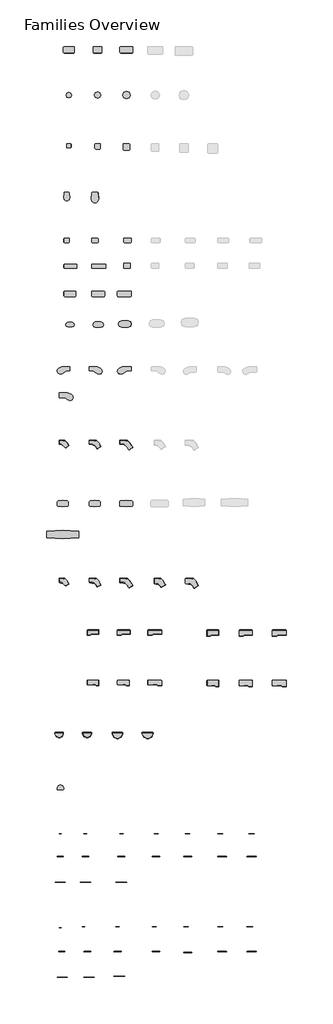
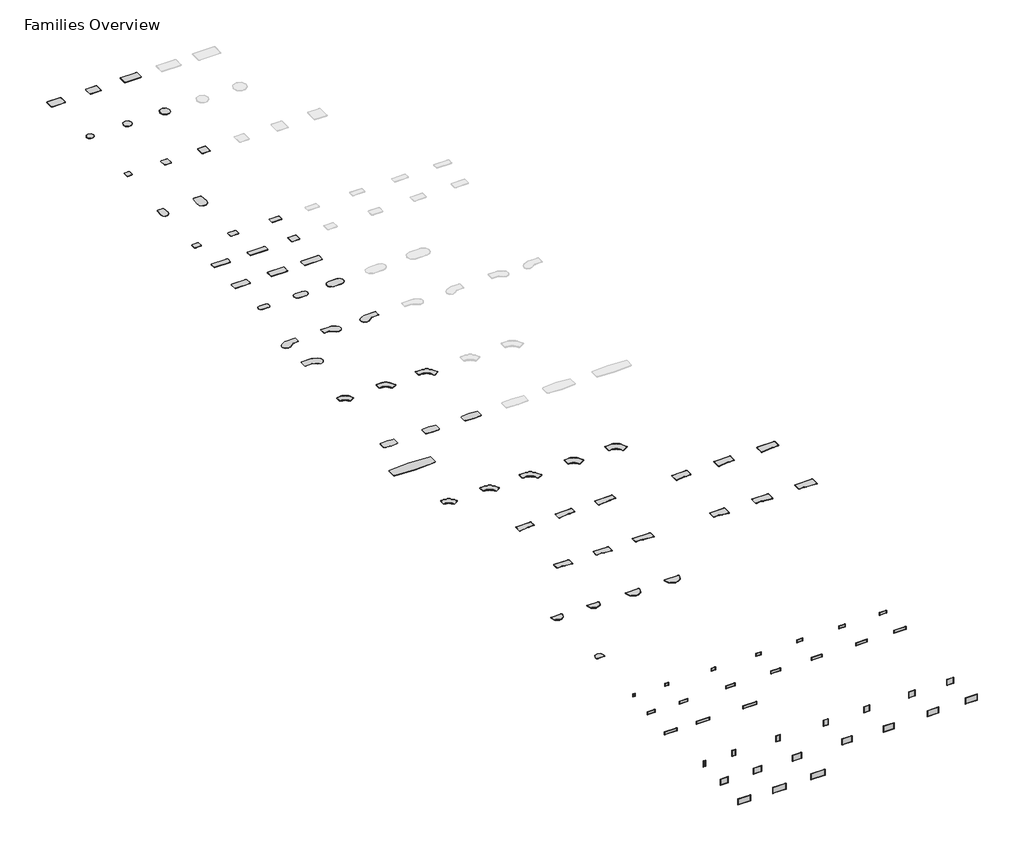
# One storey, part 1 of 3: 90 furniture elements.
"""IFC4 building model written with IfcOpenShell, lengths in millimetres."""

from ifc_helpers import new_model, si_unit, origin, place, context, project, spatial, transform, mapped, element, save
from components import furniture_098f1aec, furniture_23bbaa94, furniture_18c308d8, furniture_1676966e, furniture_8e2370ad, furniture_001bb3ce, furniture_fb54aad2, furniture_85e610aa, furniture_8805ef1a, furniture_a98a5081, furniture_ec0194f2, furniture_9fccd9ab, furniture_4a9a059a, furniture_77380ddc, furniture_15ceefc5, furniture_958205e1, furniture_0a1c9569, furniture_68b23aa5, furniture_45c099b7, furniture_54dfe461, furniture_09d0de0e, furniture_2d95de3c, furniture_98b74d04, furniture_5fea9398, furniture_d9c778b3, furniture_24in_x_30in_x_66in_2a83a822, furniture_24in_x_30in_x_78in_2ef61e4b, furniture_27in_x_32in_x_48in_75838feb, furniture_30in_x_24in_x_66in_edf3957f, furniture_30in_x_24in_x_72in_bc84e176, furniture_30in_x_24in_x_78in_4ae13c03, furniture_30in_x_36in_x_66in_160e33f3, furniture_30in_x_36in_x_72in_a0267181, furniture_30in_x_36in_x_78in_5d5ac5e1, furniture_33in_x_40in_x_60in_bd0d3fa8, furniture_36in_x_30in_x_66in_2783b16c, furniture_36in_x_30in_x_72in_42ab280b, furniture_36in_x_30in_x_78in_6322faa8, furniture_48w_0849805d, furniture_52w_7c983797, furniture_60w_297c2ae5, furniture_64w_dc0bf3da, steelcase_answer_solution_modesty_panel_full_height_15in_74964b7b, steelcase_answer_solution_modesty_panel_full_height_18in_58c8084d, steelcase_answer_solution_modesty_panel_full_height_21in_4f59d7bd, steelcase_answer_solution_modesty_panel_full_height_24in_1d2cab0f, steelcase_answer_solution_modesty_panel_full_height_27in_94429bf9, steelcase_answer_solution_modesty_panel_full_height_30in_3842627a, steelcase_answer_solution_modesty_panel_full_height_33in_8d54a0c3, steelcase_answer_solution_modesty_panel_full_height_36in_a9e87bf2, steelcase_answer_solution_modesty_panel_full_height_39in_1fd3dfdf, steelcase_answer_solution_modesty_panel_full_height_42in_e0beb9f9, steelcase_answer_solution_modesty_panel_full_height_45in_2ea0c576, steelcase_answer_solution_modesty_panel_full_height_48in_719ec124, steelcase_answer_solution_modesty_panel_full_height_51in_d566753e, steelcase_answer_solution_modesty_panel_full_height_54in_4394ff8e, steelcase_answer_solution_modesty_panel_full_height_57in_4e5e639b, steelcase_answer_solution_modesty_panel_full_height_60in_a338767f, steelcase_answer_solution_modesty_panel_full_height_9in_136281e6, steelcase_answer_solution_modesty_panel_half_height_15in_3673dff0, steelcase_answer_solution_modesty_panel_half_height_18in_19784406, steelcase_answer_solution_modesty_panel_half_height_21in_395172fc, steelcase_answer_solution_modesty_panel_half_height_24in_c1b3407e, steelcase_answer_solution_modesty_panel_half_height_27in_29186daf, steelcase_answer_solution_modesty_panel_half_height_30in_79e2bd85, steelcase_answer_solution_modesty_panel_half_height_33in_b7bac095, steelcase_answer_solution_modesty_panel_half_height_36in_416d5fb6, steelcase_answer_solution_modesty_panel_half_height_39in_644f7c5c, steelcase_answer_solution_modesty_panel_half_height_42in_a9de38b9, steelcase_answer_solution_modesty_panel_half_height_45in_6f4337e2, steelcase_answer_solution_modesty_panel_half_height_48in_4ddf96ad, steelcase_answer_solution_modesty_panel_half_height_51in_f0155a00, steelcase_answer_solution_modesty_panel_half_height_54in_2e78a3e8, steelcase_answer_solution_modesty_panel_half_height_57in_09d9d545, steelcase_answer_solution_modesty_panel_half_height_60in_16be81f0, steelcase_answer_solution_modesty_panel_half_height_9in_260cc02f, steelcase_answer_solution_universal_table_rectangular_161e908d, steelcase_answer_solution_universal_table_rectangular_6d54e472, steelcase_answer_solution_universal_table_rectangular_5f4ec094, steelcase_answer_solution_universal_table_round_30dia_e3b38b3a, steelcase_answer_solution_universal_table_round_36dia_8c53d9f9, steelcase_answer_solution_universal_table_round_42dia_902c1210, steelcase_answer_solution_universal_table_square_bafa552c, steelcase_answer_solution_universal_table_square_1e0596e6, steelcase_answer_solution_universal_table_square_e65031f2

model = new_model("IFC4")

# Units and contexts
model_context = context("Model", 3, world=origin())
ifc_project = project(units=[si_unit("LENGTHUNIT", "METRE", prefix="MILLI")], contexts=[model_context])

# Site, building, storey
site = spatial("IfcSite", under=ifc_project)
building = spatial("IfcBuilding", under=site)
storey = spatial("IfcBuildingStorey", under=building, Name="Families Overview", Elevation=0.0)

# Furniture
placement = place(None, origin())
furniture_shape = furniture_098f1aec(model_context)
element("IfcFurniture", 1, ObjectType="Steelcase - Answer Solution - Universal Table - Peninsular : 27D x 36W", at=placement, inside=storey, context=model_context, shape_type="MappedRepresentation", body=[
    mapped(furniture_shape, transform((-10567.8688063, -371479.8946531, 0.0), x_axis=(1.0, 0.0, 0.0), y_axis=(0.0, 1.0, 0.0), z_axis=(0.0, 0.0, 1.0))),
])
furniture_2_shape = furniture_23bbaa94(model_context)
element("IfcFurniture", 2, ObjectType="Steelcase - Answer Solution - Universal Table - Straight - 3mm Edge : 30D x 66W", at=placement, inside=storey, context=model_context, shape_type="MappedRepresentation", body=[
    mapped(furniture_2_shape, transform((-10062.6628064, -301076.1746531, 0.0), x_axis=(1.0, 0.0, 0.0), y_axis=(0.0, 1.0, 0.0), z_axis=(0.0, 0.0, 1.0))),
])
furniture_3_shape = furniture_18c308d8(model_context)
element("IfcFurniture", 3, ObjectType="Steelcase - Answer Solution - Universal Table - Straight - 3mm Edge : 30D x 78W", at=placement, inside=storey, context=model_context, shape_type="MappedRepresentation", body=[
    mapped(furniture_3_shape, transform((-2518.8628064, -301076.1746531, 0.0), x_axis=(1.0, 0.0, 0.0), y_axis=(0.0, 1.0, 0.0), z_axis=(0.0, 0.0, 1.0))),
])
furniture_4_shape = furniture_1676966e(model_context)
element("IfcFurniture", 4, ObjectType="Steelcase - Answer Solution - Universal Table - Straight - 3mm Edge : 24D x 30W", at=placement, inside=storey, context=model_context, shape_type="MappedRepresentation", body=[
    mapped(furniture_4_shape, transform((-10062.6628064, -293608.5746531, 0.0), x_axis=(1.0, 0.0, 0.0), y_axis=(0.0, 1.0, 0.0), z_axis=(0.0, 0.0, 1.0))),
])
furniture_5_shape = furniture_8e2370ad(model_context)
element("IfcFurniture", 5, ObjectType="Steelcase - Answer Solution - Universal Table - Straight - 3mm Edge : 30D x 72W", at=placement, inside=storey, context=model_context, shape_type="MappedRepresentation", body=[
    mapped(furniture_5_shape, transform((-6151.0628064, -301076.1746531, 0.0), x_axis=(1.0, 0.0, 0.0), y_axis=(0.0, 1.0, 0.0), z_axis=(0.0, 0.0, 1.0))),
])
furniture_6_shape = furniture_001bb3ce(model_context)
element("IfcFurniture", 6, ObjectType="Steelcase - Answer Solution - Universal Table - Straight - 3mm Edge : 30D x 36W", at=placement, inside=storey, context=model_context, shape_type="MappedRepresentation", body=[
    mapped(furniture_6_shape, transform((-1629.8628064, -297113.7746531, 0.0), x_axis=(1.0, 0.0, 0.0), y_axis=(0.0, 1.0, 0.0), z_axis=(0.0, 0.0, 1.0))),
])
furniture_7_shape = furniture_fb54aad2(model_context)
element("IfcFurniture", 7, ObjectType="Steelcase - Answer Solution - Universal Table - Straight - 3mm Edge : 24D x 36W", at=placement, inside=storey, context=model_context, shape_type="MappedRepresentation", body=[
    mapped(furniture_7_shape, transform((-6151.0628064, -293608.5746531, 0.0), x_axis=(1.0, 0.0, 0.0), y_axis=(0.0, 1.0, 0.0), z_axis=(0.0, 0.0, 1.0))),
])
furniture_8_shape = furniture_85e610aa(model_context)
element("IfcFurniture", 8, ObjectType="Steelcase - Answer Solution - Universal Table - Straight - 3mm Edge : 24D x 42W", at=placement, inside=storey, context=model_context, shape_type="MappedRepresentation", body=[
    mapped(furniture_8_shape, transform((-1629.8628064, -293608.5746531, 0.0), x_axis=(1.0, 0.0, 0.0), y_axis=(0.0, 1.0, 0.0), z_axis=(0.0, 0.0, 1.0))),
])
furniture_9_shape = furniture_8805ef1a(model_context)
element("IfcFurniture", 9, ObjectType="Steelcase - Answer Solution - Universal Table - Straight - 3mm Edge : 24D x 72W", at=placement, inside=storey, context=model_context, shape_type="MappedRepresentation", body=[
    mapped(furniture_9_shape, transform((-10062.6628064, -297266.1746531, 0.0), x_axis=(1.0, 0.0, 0.0), y_axis=(0.0, 1.0, 0.0), z_axis=(0.0, 0.0, 1.0))),
])
furniture_10_shape = furniture_a98a5081(model_context)
element("IfcFurniture", 10, ObjectType="Steelcase - Answer Solution - Universal Table - Straight - 3mm Edge : 24D x 78W", at=placement, inside=storey, context=model_context, shape_type="MappedRepresentation", body=[
    mapped(furniture_10_shape, transform((-6151.0628064, -297266.1746531, 0.0), x_axis=(1.0, 0.0, 0.0), y_axis=(0.0, 1.0, 0.0), z_axis=(0.0, 0.0, 1.0))),
])
furniture_11_shape = furniture_ec0194f2(model_context)
element("IfcFurniture", 11, ObjectType="Steelcase - Answer Solution - Universal Table - Capsule - 3mm Edge : 36D x 72W", at=placement, inside=storey, context=model_context, shape_type="MappedRepresentation", body=[
    mapped(furniture_11_shape, transform((-1452.0628064, -305724.3746531, 0.0), x_axis=(1.0, 0.0, 0.0), y_axis=(0.0, 1.0, 0.0), z_axis=(0.0, 0.0, 1.0))),
])
furniture_12_shape = furniture_9fccd9ab(model_context)
element("IfcFurniture", 12, ObjectType="Steelcase - Answer Solution - Universal Table - Capsule - 3mm Edge : 24D x 48W", at=placement, inside=storey, context=model_context, shape_type="MappedRepresentation", body=[
    mapped(furniture_12_shape, transform((-9224.4628064, -305800.5746531, 0.0), x_axis=(1.0, 0.0, 0.0), y_axis=(0.0, 1.0, 0.0), z_axis=(0.0, 0.0, 1.0))),
])
furniture_13_shape = furniture_4a9a059a(model_context)
element("IfcFurniture", 13, ObjectType="Steelcase - Answer Solution - Universal Table - Capsule - 3mm Edge : 30D x 60W", at=placement, inside=storey, context=model_context, shape_type="MappedRepresentation", body=[
    mapped(furniture_13_shape, transform((-5236.6628064, -305800.5746531, 0.0), x_axis=(1.0, 0.0, 0.0), y_axis=(0.0, 1.0, 0.0), z_axis=(0.0, 0.0, 1.0))),
])
furniture_14_shape = furniture_77380ddc(model_context)
element("IfcFurniture", 14, ObjectType="Steelcase - Answer Solution - Universal Table - Bubble Jetty - 3mm Edge : 24D x 72W - Left", at=placement, inside=storey, context=model_context, shape_type="MappedRepresentation", body=[
    mapped(furniture_14_shape, transform((-9224.4628064, -311744.1746531, 0.0), x_axis=(1.0, 0.0, 0.0), y_axis=(0.0, 1.0, 0.0), z_axis=(0.0, 0.0, 1.0))),
])
furniture_15_shape = furniture_15ceefc5(model_context)
element("IfcFurniture", 15, ObjectType="Steelcase - Answer Solution - Universal Table - Bubble Jetty - 3mm Edge : 24D x 72W - Right", at=placement, inside=storey, context=model_context, shape_type="MappedRepresentation", body=[
    mapped(furniture_15_shape, transform((-6485.072879, -311744.1746531, 0.0), x_axis=(1.0, 0.0, 0.0), y_axis=(0.0, 1.0, 0.0), z_axis=(0.0, 0.0, 1.0))),
])
furniture_16_shape = furniture_958205e1(model_context)
element("IfcFurniture", 16, ObjectType="Steelcase - Answer Solution - Universal Table - Bubble Jetty - 3mm Edge : 24D x 78W - Left", at=placement, inside=storey, context=model_context, shape_type="MappedRepresentation", body=[
    mapped(furniture_16_shape, transform((-537.6628064, -311744.1746531, 0.0), x_axis=(1.0, 0.0, 0.0), y_axis=(0.0, 1.0, 0.0), z_axis=(0.0, 0.0, 1.0))),
])
furniture_17_shape = furniture_0a1c9569(model_context)
element("IfcFurniture", 17, ObjectType="Steelcase - Answer Solution - Universal Table - Bubble Jetty - 3mm Edge : 30D x 78W - Right", at=placement, inside=storey, context=model_context, shape_type="MappedRepresentation", body=[
    mapped(furniture_17_shape, transform((-10748.4628064, -315401.7746531, 0.0), x_axis=(1.0, 0.0, 0.0), y_axis=(0.0, 1.0, 0.0), z_axis=(0.0, 0.0, 1.0))),
])
furniture_18_shape = furniture_68b23aa5(model_context)
element("IfcFurniture", 18, ObjectType="Steelcase - Answer Solution - Universal Table - Corner 120deg - 3mm Edge : 24D x 42W", at=placement, inside=storey, context=model_context, shape_type="MappedRepresentation", body=[
    mapped(furniture_18_shape, transform((-6485.072879, -322107.3746531, 0.0), x_axis=(1.0, 0.0, 0.0), y_axis=(0.0, 1.0, 0.0), z_axis=(0.0, 0.0, 1.0))),
])
element("IfcFurniture", 19, ObjectType="Steelcase - Answer Solution - Universal Table - Corner 120deg - 3mm Edge : 24D x 42W", at=placement, inside=storey, context=model_context, shape_type="MappedRepresentation", body=[
    mapped(furniture_18_shape, transform((-6485.072879, -341614.5746531, 0.0), x_axis=(1.0, 0.0, 0.0), y_axis=(0.0, 1.0, 0.0), z_axis=(0.0, 0.0, 1.0))),
])
furniture_19_shape = furniture_45c099b7(model_context)
element("IfcFurniture", 20, ObjectType="Steelcase - Answer Solution - Universal Table - Corner 120deg - 3mm Edge : 24D x 36W", at=placement, inside=storey, context=model_context, shape_type="MappedRepresentation", body=[
    mapped(furniture_19_shape, transform((-10748.4628064, -322107.3746531, 0.0), x_axis=(1.0, 0.0, 0.0), y_axis=(0.0, 1.0, 0.0), z_axis=(0.0, 0.0, 1.0))),
])
element("IfcFurniture", 21, ObjectType="Steelcase - Answer Solution - Universal Table - Corner 120deg - 3mm Edge : 24D x 36W", at=placement, inside=storey, context=model_context, shape_type="MappedRepresentation", body=[
    mapped(furniture_19_shape, transform((-10748.4628064, -341614.5746531, 0.0), x_axis=(1.0, 0.0, 0.0), y_axis=(0.0, 1.0, 0.0), z_axis=(0.0, 0.0, 1.0))),
])
furniture_20_shape = furniture_54dfe461(model_context)
element("IfcFurniture", 22, ObjectType="Steelcase - Answer Solution - Universal Table - Corner 120deg - 3mm Edge : 30D x 42W", at=placement, inside=storey, context=model_context, shape_type="MappedRepresentation", body=[
    mapped(furniture_20_shape, transform((2662.7371936, -341614.5746531, 0.0), x_axis=(1.0, 0.0, 0.0), y_axis=(0.0, 1.0, 0.0), z_axis=(0.0, 0.0, 1.0))),
])
furniture_21_shape = furniture_09d0de0e(model_context)
element("IfcFurniture", 23, ObjectType="Steelcase - Answer Solution - Universal Table - Corner 120deg - 3mm Edge : 24D x 48W", at=placement, inside=storey, context=model_context, shape_type="MappedRepresentation", body=[
    mapped(furniture_21_shape, transform((-2214.0628064, -322107.3746531, 0.0), x_axis=(1.0, 0.0, 0.0), y_axis=(0.0, 1.0, 0.0), z_axis=(0.0, 0.0, 1.0))),
])
element("IfcFurniture", 24, ObjectType="Steelcase - Answer Solution - Universal Table - Corner 120deg - 3mm Edge : 24D x 48W", at=placement, inside=storey, context=model_context, shape_type="MappedRepresentation", body=[
    mapped(furniture_21_shape, transform((-2214.0628064, -341614.5746531, 0.0), x_axis=(1.0, 0.0, 0.0), y_axis=(0.0, 1.0, 0.0), z_axis=(0.0, 0.0, 1.0))),
])
furniture_22_shape = furniture_2d95de3c(model_context)
element("IfcFurniture", 25, ObjectType="Steelcase - Answer Solution - Universal Table - Corner 120deg - 3mm Edge : 30D x 48W", at=placement, inside=storey, context=model_context, shape_type="MappedRepresentation", body=[
    mapped(furniture_22_shape, transform((7082.3371936, -341614.5746531, 0.0), x_axis=(1.0, 0.0, 0.0), y_axis=(0.0, 1.0, 0.0), z_axis=(0.0, 0.0, 1.0))),
])
furniture_23_shape = furniture_98b74d04(model_context)
element("IfcFurniture", 26, ObjectType="Steelcase - Answer Solution - Universal Table - Hex Conference : 48D x 180W", at=placement, inside=storey, context=model_context, shape_type="MappedRepresentation", body=[
    mapped(furniture_23_shape, transform((-12523.2878064, -334705.7746531, 0.0), x_axis=(1.0, 0.0, 0.0), y_axis=(0.0, 1.0, 0.0), z_axis=(0.0, 0.0, 1.0))),
])
furniture_24_shape = furniture_5fea9398(model_context)
element("IfcFurniture", 27, ObjectType="Steelcase - Answer Solution - Universal Table - Hex Conference : 36D x 72W", at=placement, inside=storey, context=model_context, shape_type="MappedRepresentation", body=[
    mapped(furniture_24_shape, transform((-2210.8878064, -330489.3746531, 0.0), x_axis=(1.0, 0.0, 0.0), y_axis=(0.0, 1.0, 0.0), z_axis=(0.0, 0.0, 1.0))),
])
furniture_25_shape = furniture_d9c778b3(model_context)
element("IfcFurniture", 28, ObjectType="Steelcase - Answer Solution - Universal Table - Hex Conference : 36D x 60W", at=placement, inside=storey, context=model_context, shape_type="MappedRepresentation", body=[
    mapped(furniture_25_shape, transform((-10999.2878064, -330489.3746531, 0.0), x_axis=(1.0, 0.0, 0.0), y_axis=(0.0, 1.0, 0.0), z_axis=(0.0, 0.0, 1.0))),
])
element("IfcFurniture", 29, ObjectType="Steelcase - Answer Solution - Universal Table - Hex Conference : 36D x 66W", at=placement, inside=storey, context=model_context, shape_type="MappedRepresentation", body=[
    mapped(furniture_25_shape, transform((-6481.897879, -330489.3746531, 0.0), x_axis=(1.0, 0.0, 0.0), y_axis=(0.0, 1.0, 0.0), z_axis=(0.0, 0.0, 1.0))),
])
furniture_24in_x_30in_x_66in_shape = furniture_24in_x_30in_x_66in_2a83a822(model_context)
element("IfcFurniture", 30, ObjectType="Steelcase - Answer Solution - Universal Table - Transition - Right : 24in x 30in x 66in", at=placement, inside=storey, context=model_context, shape_type="MappedRepresentation", body=[
    mapped(furniture_24in_x_30in_x_66in_shape, transform((-6789.872879, -356042.9134373, 0.0), x_axis=(1.0, 0.0, 0.0), y_axis=(0.0, 1.0, 0.0), z_axis=(0.0, 0.0, 1.0))),
])
element("IfcFurniture", 31, ObjectType="Steelcase - Answer Solution - Universal Table - Transition - Right : 24in x 30in x 72in", at=placement, inside=storey, context=model_context, shape_type="MappedRepresentation", body=[
    mapped(furniture_24in_x_30in_x_66in_shape, transform((-2518.8628064, -356042.9134373, 0.0), x_axis=(1.0, 0.0, 0.0), y_axis=(0.0, 1.0, 0.0), z_axis=(0.0, 0.0, 1.0))),
])
furniture_24in_x_30in_x_78in_shape = furniture_24in_x_30in_x_78in_2ef61e4b(model_context)
element("IfcFurniture", 32, ObjectType="Steelcase - Answer Solution - Universal Table - Transition - Right : 24in x 30in x 78in", at=placement, inside=storey, context=model_context, shape_type="MappedRepresentation", body=[
    mapped(furniture_24in_x_30in_x_78in_shape, transform((1748.3371936, -356042.9134373, 0.0), x_axis=(1.0, 0.0, 0.0), y_axis=(0.0, 1.0, 0.0), z_axis=(0.0, 0.0, 1.0))),
])
furniture_27in_x_32in_x_48in_shape = furniture_27in_x_32in_x_48in_75838feb(model_context)
element("IfcFurniture", 33, ObjectType="Steelcase - Answer Solution - Universal Table - Tapered Peninsula : 27in x 32in x 48in", at=placement, inside=storey, context=model_context, shape_type="MappedRepresentation", body=[
    mapped(furniture_27in_x_32in_x_48in_shape, transform((-9681.6628064, -287107.8507324, 0.0), x_axis=(1.0, 0.0, 0.0), y_axis=(0.0, 1.0, 0.0), z_axis=(0.0, 0.0, 1.0))),
])
furniture_30in_x_24in_x_66in_shape = furniture_30in_x_24in_x_66in_edf3957f(model_context)
element("IfcFurniture", 34, ObjectType="Steelcase - Answer Solution - Universal Table - Transition - Left : 30in x 24in x 66in", at=placement, inside=storey, context=model_context, shape_type="MappedRepresentation", body=[
    mapped(furniture_30in_x_24in_x_66in_shape, transform((-6789.872879, -348929.7746531, 0.0), x_axis=(1.0, 0.0, 0.0), y_axis=(0.0, 1.0, 0.0), z_axis=(0.0, 0.0, 1.0))),
])
furniture_30in_x_24in_x_72in_shape = furniture_30in_x_24in_x_72in_bc84e176(model_context)
element("IfcFurniture", 35, ObjectType="Steelcase - Answer Solution - Universal Table - Transition - Left : 30in x 24in x 72in", at=placement, inside=storey, context=model_context, shape_type="MappedRepresentation", body=[
    mapped(furniture_30in_x_24in_x_72in_shape, transform((-2518.8628064, -348929.7746531, 0.0), x_axis=(1.0, 0.0, 0.0), y_axis=(0.0, 1.0, 0.0), z_axis=(0.0, 0.0, 1.0))),
])
furniture_30in_x_24in_x_78in_shape = furniture_30in_x_24in_x_78in_4ae13c03(model_context)
element("IfcFurniture", 36, ObjectType="Steelcase - Answer Solution - Universal Table - Transition - Left : 30in x 24in x 78in", at=placement, inside=storey, context=model_context, shape_type="MappedRepresentation", body=[
    mapped(furniture_30in_x_24in_x_78in_shape, transform((1748.3371936, -348929.7746531, 0.0), x_axis=(1.0, 0.0, 0.0), y_axis=(0.0, 1.0, 0.0), z_axis=(0.0, 0.0, 1.0))),
])
furniture_30in_x_36in_x_66in_shape = furniture_30in_x_36in_x_66in_160e33f3(model_context)
element("IfcFurniture", 37, ObjectType="Steelcase - Answer Solution - Universal Table - Transition - Right : 30in x 36in x 66in", at=placement, inside=storey, context=model_context, shape_type="MappedRepresentation", body=[
    mapped(furniture_30in_x_36in_x_66in_shape, transform((10130.3371936, -356042.9134373, 0.0), x_axis=(1.0, 0.0, 0.0), y_axis=(0.0, 1.0, 0.0), z_axis=(0.0, 0.0, 1.0))),
])
furniture_30in_x_36in_x_72in_shape = furniture_30in_x_36in_x_72in_a0267181(model_context)
element("IfcFurniture", 38, ObjectType="Steelcase - Answer Solution - Universal Table - Transition - Right : 30in x 36in x 72in", at=placement, inside=storey, context=model_context, shape_type="MappedRepresentation", body=[
    mapped(furniture_30in_x_36in_x_72in_shape, transform((14702.3371936, -356042.9134373, 0.0), x_axis=(1.0, 0.0, 0.0), y_axis=(0.0, 1.0, 0.0), z_axis=(0.0, 0.0, 1.0))),
])
furniture_30in_x_36in_x_78in_shape = furniture_30in_x_36in_x_78in_5d5ac5e1(model_context)
element("IfcFurniture", 39, ObjectType="Steelcase - Answer Solution - Universal Table - Transition - Right : 30in x 36in x 78in", at=placement, inside=storey, context=model_context, shape_type="MappedRepresentation", body=[
    mapped(furniture_30in_x_36in_x_78in_shape, transform((19350.5371936, -356042.9134373, 0.0), x_axis=(1.0, 0.0, 0.0), y_axis=(0.0, 1.0, 0.0), z_axis=(0.0, 0.0, 1.0))),
])
furniture_33in_x_40in_x_60in_shape = furniture_33in_x_40in_x_60in_bd0d3fa8(model_context)
element("IfcFurniture", 40, ObjectType="Steelcase - Answer Solution - Universal Table - Tapered Peninsula : 33in x 40in x 60in", at=placement, inside=storey, context=model_context, shape_type="MappedRepresentation", body=[
    mapped(furniture_33in_x_40in_x_60in_shape, transform((-5693.8628064, -287107.8507324, 0.0), x_axis=(1.0, 0.0, 0.0), y_axis=(0.0, 1.0, 0.0), z_axis=(0.0, 0.0, 1.0))),
])
furniture_36in_x_30in_x_66in_shape = furniture_36in_x_30in_x_66in_2783b16c(model_context)
element("IfcFurniture", 41, ObjectType="Steelcase - Answer Solution - Universal Table - Transition - Left : 36in x 30in x 66in", at=placement, inside=storey, context=model_context, shape_type="MappedRepresentation", body=[
    mapped(furniture_36in_x_30in_x_66in_shape, transform((10130.3371936, -348929.7746531, 0.0), x_axis=(1.0, 0.0, 0.0), y_axis=(0.0, 1.0, 0.0), z_axis=(0.0, 0.0, 1.0))),
])
furniture_36in_x_30in_x_72in_shape = furniture_36in_x_30in_x_72in_42ab280b(model_context)
element("IfcFurniture", 42, ObjectType="Steelcase - Answer Solution - Universal Table - Transition - Left : 36in x 30in x 72in", at=placement, inside=storey, context=model_context, shape_type="MappedRepresentation", body=[
    mapped(furniture_36in_x_30in_x_72in_shape, transform((14702.3371936, -348929.7746531, 0.0), x_axis=(1.0, 0.0, 0.0), y_axis=(0.0, 1.0, 0.0), z_axis=(0.0, 0.0, 1.0))),
])
furniture_36in_x_30in_x_78in_shape = furniture_36in_x_30in_x_78in_6322faa8(model_context)
element("IfcFurniture", 43, ObjectType="Steelcase - Answer Solution - Universal Table - Transition - Left : 36in x 30in x 78in", at=placement, inside=storey, context=model_context, shape_type="MappedRepresentation", body=[
    mapped(furniture_36in_x_30in_x_78in_shape, transform((19350.5371936, -348929.7746531, 0.0), x_axis=(1.0, 0.0, 0.0), y_axis=(0.0, 1.0, 0.0), z_axis=(0.0, 0.0, 1.0))),
])
furniture_48w_shape = furniture_48w_0849805d(model_context)
element("IfcFurniture", 44, ObjectType="Steelcase - Answer Solution - Universal Table - Spanner : 48W", at=placement, inside=storey, context=model_context, shape_type="MappedRepresentation", body=[
    mapped(furniture_48w_shape, transform((-10748.4628064, -363404.3555074, 0.0), x_axis=(1.0, 0.0, 0.0), y_axis=(0.0, 1.0, 0.0), z_axis=(0.0, 0.0, 1.0))),
])
furniture_52w_shape = furniture_52w_7c983797(model_context)
element("IfcFurniture", 45, ObjectType="Steelcase - Answer Solution - Universal Table - Spanner : 52W", at=placement, inside=storey, context=model_context, shape_type="MappedRepresentation", body=[
    mapped(furniture_52w_shape, transform((-6789.872879, -363404.3555074, 0.0), x_axis=(1.0, 0.0, 0.0), y_axis=(0.0, 1.0, 0.0), z_axis=(0.0, 0.0, 1.0))),
])
furniture_60w_shape = furniture_60w_297c2ae5(model_context)
element("IfcFurniture", 46, ObjectType="Steelcase - Answer Solution - Universal Table - Spanner : 60W", at=placement, inside=storey, context=model_context, shape_type="MappedRepresentation", body=[
    mapped(furniture_60w_shape, transform((-2518.8628064, -363404.3555074, 0.0), x_axis=(1.0, 0.0, 0.0), y_axis=(0.0, 1.0, 0.0), z_axis=(0.0, 0.0, 1.0))),
])
furniture_64w_shape = furniture_64w_dc0bf3da(model_context)
element("IfcFurniture", 47, ObjectType="Steelcase - Answer Solution - Universal Table - Spanner : 64W", at=placement, inside=storey, context=model_context, shape_type="MappedRepresentation", body=[
    mapped(furniture_64w_shape, transform((1748.3371936, -363404.3555074, 0.0), x_axis=(1.0, 0.0, 0.0), y_axis=(0.0, 1.0, 0.0), z_axis=(0.0, 0.0, 1.0))),
])
steelcase_answer_solution_modesty_panel_full_height_15in_shape = steelcase_answer_solution_modesty_panel_full_height_15in_74964b7b(model_context)
element("IfcFurniture", 48, ObjectType="Steelcase - Answer Solution - Modesty Panel - Full Height : 15in", at=placement, inside=storey, context=model_context, shape_type="MappedRepresentation", body=[
    mapped(steelcase_answer_solution_modesty_panel_full_height_15in_shape, transform((-8022.514889, -390821.296145, 0.0), x_axis=(1.0, 0.0, 0.0), y_axis=(0.0, 1.0, 0.0), z_axis=(0.0, 0.0, 1.0))),
])
steelcase_answer_solution_modesty_panel_full_height_18in_shape = steelcase_answer_solution_modesty_panel_full_height_18in_58c8084d(model_context)
element("IfcFurniture", 49, ObjectType="Steelcase - Answer Solution - Modesty Panel - Full Height : 18in", at=placement, inside=storey, context=model_context, shape_type="MappedRepresentation", body=[
    mapped(steelcase_answer_solution_modesty_panel_full_height_18in_shape, transform((-3260.014889, -390821.296145, 0.0), x_axis=(1.0, 0.0, 0.0), y_axis=(0.0, 1.0, 0.0), z_axis=(0.0, 0.0, 1.0))),
])
steelcase_answer_solution_modesty_panel_full_height_21in_shape = steelcase_answer_solution_modesty_panel_full_height_21in_4f59d7bd(model_context)
element("IfcFurniture", 50, ObjectType="Steelcase - Answer Solution - Modesty Panel - Full Height : 21in", at=placement, inside=storey, context=model_context, shape_type="MappedRepresentation", body=[
    mapped(steelcase_answer_solution_modesty_panel_full_height_21in_shape, transform((1883.485111, -390821.296145, 0.0), x_axis=(1.0, 0.0, 0.0), y_axis=(0.0, 1.0, 0.0), z_axis=(0.0, 0.0, 1.0))),
])
steelcase_answer_solution_modesty_panel_full_height_24in_shape = steelcase_answer_solution_modesty_panel_full_height_24in_1d2cab0f(model_context)
element("IfcFurniture", 51, ObjectType="Steelcase - Answer Solution - Modesty Panel - Full Height : 24in", at=placement, inside=storey, context=model_context, shape_type="MappedRepresentation", body=[
    mapped(steelcase_answer_solution_modesty_panel_full_height_24in_shape, transform((6303.085111, -390821.296145, 0.0), x_axis=(1.0, 0.0, 0.0), y_axis=(0.0, 1.0, 0.0), z_axis=(0.0, 0.0, 1.0))),
])
steelcase_answer_solution_modesty_panel_full_height_27in_shape = steelcase_answer_solution_modesty_panel_full_height_27in_94429bf9(model_context)
element("IfcFurniture", 52, ObjectType="Steelcase - Answer Solution - Modesty Panel - Full Height : 27in", at=placement, inside=storey, context=model_context, shape_type="MappedRepresentation", body=[
    mapped(steelcase_answer_solution_modesty_panel_full_height_27in_shape, transform((11141.785111, -390821.296145, 0.0), x_axis=(1.0, 0.0, 0.0), y_axis=(0.0, 1.0, 0.0), z_axis=(0.0, 0.0, 1.0))),
])
steelcase_answer_solution_modesty_panel_full_height_30in_shape = steelcase_answer_solution_modesty_panel_full_height_30in_3842627a(model_context)
element("IfcFurniture", 53, ObjectType="Steelcase - Answer Solution - Modesty Panel - Full Height : 30in", at=placement, inside=storey, context=model_context, shape_type="MappedRepresentation", body=[
    mapped(steelcase_answer_solution_modesty_panel_full_height_30in_shape, transform((15263.6971458, -390821.296145, 0.0), x_axis=(1.0, 0.0, 0.0), y_axis=(0.0, 1.0, 0.0), z_axis=(0.0, 0.0, 1.0))),
])
steelcase_answer_solution_modesty_panel_full_height_33in_shape = steelcase_answer_solution_modesty_panel_full_height_33in_8d54a0c3(model_context)
element("IfcFurniture", 54, ObjectType="Steelcase - Answer Solution - Modesty Panel - Full Height : 33in", at=placement, inside=storey, context=model_context, shape_type="MappedRepresentation", body=[
    mapped(steelcase_answer_solution_modesty_panel_full_height_33in_shape, transform((-11313.85604, -394341.1765171, 0.0), x_axis=(1.0, 0.0, 0.0), y_axis=(0.0, 1.0, 0.0), z_axis=(0.0, 0.0, 1.0))),
])
steelcase_answer_solution_modesty_panel_full_height_36in_shape = steelcase_answer_solution_modesty_panel_full_height_36in_a9e87bf2(model_context)
element("IfcFurniture", 55, ObjectType="Steelcase - Answer Solution - Modesty Panel - Full Height : 36in", at=placement, inside=storey, context=model_context, shape_type="MappedRepresentation", body=[
    mapped(steelcase_answer_solution_modesty_panel_full_height_36in_shape, transform((-7755.814889, -394341.1765171, 0.0), x_axis=(1.0, 0.0, 0.0), y_axis=(0.0, 1.0, 0.0), z_axis=(0.0, 0.0, 1.0))),
])
steelcase_answer_solution_modesty_panel_full_height_39in_shape = steelcase_answer_solution_modesty_panel_full_height_39in_1fd3dfdf(model_context)
element("IfcFurniture", 56, ObjectType="Steelcase - Answer Solution - Modesty Panel - Full Height : 39in", at=placement, inside=storey, context=model_context, shape_type="MappedRepresentation", body=[
    mapped(steelcase_answer_solution_modesty_panel_full_height_39in_shape, transform((-3526.714889, -394341.1765171, 0.0), x_axis=(1.0, 0.0, 0.0), y_axis=(0.0, 1.0, 0.0), z_axis=(0.0, 0.0, 1.0))),
])
steelcase_answer_solution_modesty_panel_full_height_42in_shape = steelcase_answer_solution_modesty_panel_full_height_42in_e0beb9f9(model_context)
element("IfcFurniture", 57, ObjectType="Steelcase - Answer Solution - Modesty Panel - Full Height : 42in", at=placement, inside=storey, context=model_context, shape_type="MappedRepresentation", body=[
    mapped(steelcase_answer_solution_modesty_panel_full_height_42in_shape, transform((1883.485111, -394341.1765171, 0.0), x_axis=(1.0, 0.0, 0.0), y_axis=(0.0, 1.0, 0.0), z_axis=(0.0, 0.0, 1.0))),
])
steelcase_answer_solution_modesty_panel_full_height_45in_shape = steelcase_answer_solution_modesty_panel_full_height_45in_2ea0c576(model_context)
element("IfcFurniture", 58, ObjectType="Steelcase - Answer Solution - Modesty Panel - Full Height : 45in", at=placement, inside=storey, context=model_context, shape_type="MappedRepresentation", body=[
    mapped(steelcase_answer_solution_modesty_panel_full_height_45in_shape, transform((6303.085111, -394478.896145, 0.0), x_axis=(1.0, 0.0, 0.0), y_axis=(0.0, 1.0, 0.0), z_axis=(0.0, 0.0, 1.0))),
])
steelcase_answer_solution_modesty_panel_full_height_48in_shape = steelcase_answer_solution_modesty_panel_full_height_48in_719ec124(model_context)
element("IfcFurniture", 59, ObjectType="Steelcase - Answer Solution - Modesty Panel - Full Height : 48in", at=placement, inside=storey, context=model_context, shape_type="MappedRepresentation", body=[
    mapped(steelcase_answer_solution_modesty_panel_full_height_48in_shape, transform((11141.785111, -394341.1765171, 0.0), x_axis=(1.0, 0.0, 0.0), y_axis=(0.0, 1.0, 0.0), z_axis=(0.0, 0.0, 1.0))),
])
steelcase_answer_solution_modesty_panel_full_height_51in_shape = steelcase_answer_solution_modesty_panel_full_height_51in_d566753e(model_context)
element("IfcFurniture", 60, ObjectType="Steelcase - Answer Solution - Modesty Panel - Full Height : 51in", at=placement, inside=storey, context=model_context, shape_type="MappedRepresentation", body=[
    mapped(steelcase_answer_solution_modesty_panel_full_height_51in_shape, transform((15263.6971458, -394341.1765171, 0.0), x_axis=(1.0, 0.0, 0.0), y_axis=(0.0, 1.0, 0.0), z_axis=(0.0, 0.0, 1.0))),
])
steelcase_answer_solution_modesty_panel_full_height_54in_shape = steelcase_answer_solution_modesty_panel_full_height_54in_4394ff8e(model_context)
element("IfcFurniture", 61, ObjectType="Steelcase - Answer Solution - Modesty Panel - Full Height : 54in", at=placement, inside=storey, context=model_context, shape_type="MappedRepresentation", body=[
    mapped(steelcase_answer_solution_modesty_panel_full_height_54in_shape, transform((-11515.014889, -397984.096145, 0.0), x_axis=(1.0, 0.0, 0.0), y_axis=(0.0, 1.0, 0.0), z_axis=(0.0, 0.0, 1.0))),
])
steelcase_answer_solution_modesty_panel_full_height_57in_shape = steelcase_answer_solution_modesty_panel_full_height_57in_4e5e639b(model_context)
element("IfcFurniture", 62, ObjectType="Steelcase - Answer Solution - Modesty Panel - Full Height : 57in", at=placement, inside=storey, context=model_context, shape_type="MappedRepresentation", body=[
    mapped(steelcase_answer_solution_modesty_panel_full_height_57in_shape, transform((-7755.814889, -397984.096145, 0.0), x_axis=(1.0, 0.0, 0.0), y_axis=(0.0, 1.0, 0.0), z_axis=(0.0, 0.0, 1.0))),
])
steelcase_answer_solution_modesty_panel_full_height_60in_shape = steelcase_answer_solution_modesty_panel_full_height_60in_a338767f(model_context)
element("IfcFurniture", 63, ObjectType="Steelcase - Answer Solution - Modesty Panel - Full Height : 60in", at=placement, inside=storey, context=model_context, shape_type="MappedRepresentation", body=[
    mapped(steelcase_answer_solution_modesty_panel_full_height_60in_shape, transform((-3526.714889, -397831.696145, 0.0), x_axis=(1.0, 0.0, 0.0), y_axis=(0.0, 1.0, 0.0), z_axis=(0.0, 0.0, 1.0))),
])
steelcase_answer_solution_modesty_panel_full_height_9in_shape = steelcase_answer_solution_modesty_panel_full_height_9in_136281e6(model_context)
element("IfcFurniture", 64, ObjectType="Steelcase - Answer Solution - Modesty Panel - Full Height : 9in", at=placement, inside=storey, context=model_context, shape_type="MappedRepresentation", body=[
    mapped(steelcase_answer_solution_modesty_panel_full_height_9in_shape, transform((-11210.214889, -390973.696145, 0.0), x_axis=(1.0, 0.0, 0.0), y_axis=(0.0, 1.0, 0.0), z_axis=(0.0, 0.0, 1.0))),
])
steelcase_answer_solution_modesty_panel_half_height_15in_shape = steelcase_answer_solution_modesty_panel_half_height_15in_3673dff0(model_context)
element("IfcFurniture", 65, ObjectType="Steelcase - Answer Solution - Modesty Panel - Half Height : 15in", at=placement, inside=storey, context=model_context, shape_type="MappedRepresentation", body=[
    mapped(steelcase_answer_solution_modesty_panel_half_height_15in_shape, transform((-7755.814889, -377714.896145, 0.0), x_axis=(1.0, 0.0, 0.0), y_axis=(0.0, 1.0, 0.0), z_axis=(0.0, 0.0, 1.0))),
])
steelcase_answer_solution_modesty_panel_half_height_18in_shape = steelcase_answer_solution_modesty_panel_half_height_18in_19784406(model_context)
element("IfcFurniture", 66, ObjectType="Steelcase - Answer Solution - Modesty Panel - Half Height : 18in", at=placement, inside=storey, context=model_context, shape_type="MappedRepresentation", body=[
    mapped(steelcase_answer_solution_modesty_panel_half_height_18in_shape, transform((-2726.614889, -377714.896145, 0.0), x_axis=(1.0, 0.0, 0.0), y_axis=(0.0, 1.0, 0.0), z_axis=(0.0, 0.0, 1.0))),
])
steelcase_answer_solution_modesty_panel_half_height_21in_shape = steelcase_answer_solution_modesty_panel_half_height_21in_395172fc(model_context)
element("IfcFurniture", 67, ObjectType="Steelcase - Answer Solution - Modesty Panel - Half Height : 21in", at=placement, inside=storey, context=model_context, shape_type="MappedRepresentation", body=[
    mapped(steelcase_answer_solution_modesty_panel_half_height_21in_shape, transform((2150.185111, -377714.896145, 0.0), x_axis=(1.0, 0.0, 0.0), y_axis=(0.0, 1.0, 0.0), z_axis=(0.0, 0.0, 1.0))),
])
steelcase_answer_solution_modesty_panel_half_height_24in_shape = steelcase_answer_solution_modesty_panel_half_height_24in_c1b3407e(model_context)
element("IfcFurniture", 68, ObjectType="Steelcase - Answer Solution - Modesty Panel - Half Height : 24in", at=placement, inside=storey, context=model_context, shape_type="MappedRepresentation", body=[
    mapped(steelcase_answer_solution_modesty_panel_half_height_24in_shape, transform((6569.785111, -377714.896145, 0.0), x_axis=(1.0, 0.0, 0.0), y_axis=(0.0, 1.0, 0.0), z_axis=(0.0, 0.0, 1.0))),
])
steelcase_answer_solution_modesty_panel_half_height_27in_shape = steelcase_answer_solution_modesty_panel_half_height_27in_29186daf(model_context)
element("IfcFurniture", 69, ObjectType="Steelcase - Answer Solution - Modesty Panel - Half Height : 27in", at=placement, inside=storey, context=model_context, shape_type="MappedRepresentation", body=[
    mapped(steelcase_answer_solution_modesty_panel_half_height_27in_shape, transform((11141.785111, -377714.896145, 0.0), x_axis=(1.0, 0.0, 0.0), y_axis=(0.0, 1.0, 0.0), z_axis=(0.0, 0.0, 1.0))),
])
steelcase_answer_solution_modesty_panel_half_height_30in_shape = steelcase_answer_solution_modesty_panel_half_height_30in_79e2bd85(model_context)
element("IfcFurniture", 70, ObjectType="Steelcase - Answer Solution - Modesty Panel - Half Height : 30in", at=placement, inside=storey, context=model_context, shape_type="MappedRepresentation", body=[
    mapped(steelcase_answer_solution_modesty_panel_half_height_30in_shape, transform((15530.3971458, -377714.896145, 0.0), x_axis=(1.0, 0.0, 0.0), y_axis=(0.0, 1.0, 0.0), z_axis=(0.0, 0.0, 1.0))),
])
steelcase_answer_solution_modesty_panel_half_height_33in_shape = steelcase_answer_solution_modesty_panel_half_height_33in_b7bac095(model_context)
element("IfcFurniture", 71, ObjectType="Steelcase - Answer Solution - Modesty Panel - Half Height : 33in", at=placement, inside=storey, context=model_context, shape_type="MappedRepresentation", body=[
    mapped(steelcase_answer_solution_modesty_panel_half_height_33in_shape, transform((-11515.014889, -380915.296145, 0.0), x_axis=(1.0, 0.0, 0.0), y_axis=(0.0, 1.0, 0.0), z_axis=(0.0, 0.0, 1.0))),
])
steelcase_answer_solution_modesty_panel_half_height_36in_shape = steelcase_answer_solution_modesty_panel_half_height_36in_416d5fb6(model_context)
element("IfcFurniture", 72, ObjectType="Steelcase - Answer Solution - Modesty Panel - Half Height : 36in", at=placement, inside=storey, context=model_context, shape_type="MappedRepresentation", body=[
    mapped(steelcase_answer_solution_modesty_panel_half_height_36in_shape, transform((-8022.514889, -380915.296145, 0.0), x_axis=(1.0, 0.0, 0.0), y_axis=(0.0, 1.0, 0.0), z_axis=(0.0, 0.0, 1.0))),
])
steelcase_answer_solution_modesty_panel_half_height_39in_shape = steelcase_answer_solution_modesty_panel_half_height_39in_644f7c5c(model_context)
element("IfcFurniture", 73, ObjectType="Steelcase - Answer Solution - Modesty Panel - Half Height : 39in", at=placement, inside=storey, context=model_context, shape_type="MappedRepresentation", body=[
    mapped(steelcase_answer_solution_modesty_panel_half_height_39in_shape, transform((-2993.314889, -380915.296145, 0.0), x_axis=(1.0, 0.0, 0.0), y_axis=(0.0, 1.0, 0.0), z_axis=(0.0, 0.0, 1.0))),
])
steelcase_answer_solution_modesty_panel_half_height_42in_shape = steelcase_answer_solution_modesty_panel_half_height_42in_a9de38b9(model_context)
element("IfcFurniture", 74, ObjectType="Steelcase - Answer Solution - Modesty Panel - Half Height : 42in", at=placement, inside=storey, context=model_context, shape_type="MappedRepresentation", body=[
    mapped(steelcase_answer_solution_modesty_panel_half_height_42in_shape, transform((1883.485111, -380915.296145, 0.0), x_axis=(1.0, 0.0, 0.0), y_axis=(0.0, 1.0, 0.0), z_axis=(0.0, 0.0, 1.0))),
])
steelcase_answer_solution_modesty_panel_half_height_45in_shape = steelcase_answer_solution_modesty_panel_half_height_45in_6f4337e2(model_context)
element("IfcFurniture", 75, ObjectType="Steelcase - Answer Solution - Modesty Panel - Half Height : 45in", at=placement, inside=storey, context=model_context, shape_type="MappedRepresentation", body=[
    mapped(steelcase_answer_solution_modesty_panel_half_height_45in_shape, transform((6303.085111, -380915.296145, 0.0), x_axis=(1.0, 0.0, 0.0), y_axis=(0.0, 1.0, 0.0), z_axis=(0.0, 0.0, 1.0))),
])
steelcase_answer_solution_modesty_panel_half_height_48in_shape = steelcase_answer_solution_modesty_panel_half_height_48in_4ddf96ad(model_context)
element("IfcFurniture", 76, ObjectType="Steelcase - Answer Solution - Modesty Panel - Half Height : 48in", at=placement, inside=storey, context=model_context, shape_type="MappedRepresentation", body=[
    mapped(steelcase_answer_solution_modesty_panel_half_height_48in_shape, transform((11141.785111, -380915.296145, 0.0), x_axis=(1.0, 0.0, 0.0), y_axis=(0.0, 1.0, 0.0), z_axis=(0.0, 0.0, 1.0))),
])
steelcase_answer_solution_modesty_panel_half_height_51in_shape = steelcase_answer_solution_modesty_panel_half_height_51in_f0155a00(model_context)
element("IfcFurniture", 77, ObjectType="Steelcase - Answer Solution - Modesty Panel - Half Height : 51in", at=placement, inside=storey, context=model_context, shape_type="MappedRepresentation", body=[
    mapped(steelcase_answer_solution_modesty_panel_half_height_51in_shape, transform((15263.6971458, -380915.296145, 0.0), x_axis=(1.0, 0.0, 0.0), y_axis=(0.0, 1.0, 0.0), z_axis=(0.0, 0.0, 1.0))),
])
steelcase_answer_solution_modesty_panel_half_height_54in_shape = steelcase_answer_solution_modesty_panel_half_height_54in_2e78a3e8(model_context)
element("IfcFurniture", 78, ObjectType="Steelcase - Answer Solution - Modesty Panel - Half Height : 54in", at=placement, inside=storey, context=model_context, shape_type="MappedRepresentation", body=[
    mapped(steelcase_answer_solution_modesty_panel_half_height_54in_shape, transform((-11781.714889, -384572.896145, 0.0), x_axis=(1.0, 0.0, 0.0), y_axis=(0.0, 1.0, 0.0), z_axis=(0.0, 0.0, 1.0))),
])
steelcase_answer_solution_modesty_panel_half_height_57in_shape = steelcase_answer_solution_modesty_panel_half_height_57in_09d9d545(model_context)
element("IfcFurniture", 79, ObjectType="Steelcase - Answer Solution - Modesty Panel - Half Height : 57in", at=placement, inside=storey, context=model_context, shape_type="MappedRepresentation", body=[
    mapped(steelcase_answer_solution_modesty_panel_half_height_57in_shape, transform((-8289.214889, -384572.896145, 0.0), x_axis=(1.0, 0.0, 0.0), y_axis=(0.0, 1.0, 0.0), z_axis=(0.0, 0.0, 1.0))),
])
steelcase_answer_solution_modesty_panel_half_height_60in_shape = steelcase_answer_solution_modesty_panel_half_height_60in_16be81f0(model_context)
element("IfcFurniture", 80, ObjectType="Steelcase - Answer Solution - Modesty Panel - Half Height : 60in", at=placement, inside=storey, context=model_context, shape_type="MappedRepresentation", body=[
    mapped(steelcase_answer_solution_modesty_panel_half_height_60in_shape, transform((-3260.014889, -384572.896145, 0.0), x_axis=(1.0, 0.0, 0.0), y_axis=(0.0, 1.0, 0.0), z_axis=(0.0, 0.0, 1.0))),
])
steelcase_answer_solution_modesty_panel_half_height_9in_shape = steelcase_answer_solution_modesty_panel_half_height_9in_260cc02f(model_context)
element("IfcFurniture", 81, ObjectType="Steelcase - Answer Solution - Modesty Panel - Half Height : 9in", at=placement, inside=storey, context=model_context, shape_type="MappedRepresentation", body=[
    mapped(steelcase_answer_solution_modesty_panel_half_height_9in_shape, transform((-11210.214889, -377714.896145, 0.0), x_axis=(1.0, 0.0, 0.0), y_axis=(0.0, 1.0, 0.0), z_axis=(0.0, 0.0, 1.0))),
])
steelcase_answer_solution_universal_table_rectangular_shape = steelcase_answer_solution_universal_table_rectangular_161e908d(model_context)
element("IfcFurniture", 82, ObjectType="Steelcase - Answer Solution - Universal Table - Rectangular : 36D x 60W", at=placement, inside=storey, context=model_context, shape_type="MappedRepresentation", body=[
    mapped(steelcase_answer_solution_universal_table_rectangular_shape, transform((-10138.8628064, -266533.8507324, 0.0), x_axis=(1.0, 0.0, 0.0), y_axis=(0.0, 1.0, 0.0), z_axis=(0.0, 0.0, 1.0))),
])
steelcase_answer_solution_universal_table_rectangular_2_shape = steelcase_answer_solution_universal_table_rectangular_6d54e472(model_context)
element("IfcFurniture", 83, ObjectType="Steelcase - Answer Solution - Universal Table - Rectangular : 36D x 66W", at=placement, inside=storey, context=model_context, shape_type="MappedRepresentation", body=[
    mapped(steelcase_answer_solution_universal_table_rectangular_2_shape, transform((-5922.4628064, -266533.8507324, 0.0), x_axis=(1.0, 0.0, 0.0), y_axis=(0.0, 1.0, 0.0), z_axis=(0.0, 0.0, 1.0))),
])
steelcase_answer_solution_universal_table_rectangular_3_shape = steelcase_answer_solution_universal_table_rectangular_5f4ec094(model_context)
element("IfcFurniture", 84, ObjectType="Steelcase - Answer Solution - Universal Table - Rectangular : 36D x 72W", at=placement, inside=storey, context=model_context, shape_type="MappedRepresentation", body=[
    mapped(steelcase_answer_solution_universal_table_rectangular_3_shape, transform((-2163.2628064, -266533.8507324, 0.0), x_axis=(1.0, 0.0, 0.0), y_axis=(0.0, 1.0, 0.0), z_axis=(0.0, 0.0, 1.0))),
])
steelcase_answer_solution_universal_table_round_30dia_shape = steelcase_answer_solution_universal_table_round_30dia_e3b38b3a(model_context)
element("IfcFurniture", 85, ObjectType="Steelcase - Answer Solution - Universal Table - Round : 30Dia", at=placement, inside=storey, context=model_context, shape_type="MappedRepresentation", body=[
    mapped(steelcase_answer_solution_universal_table_round_30dia_shape, transform((-9376.8628064, -273391.8507324, 0.0), x_axis=(1.0, 0.0, 0.0), y_axis=(0.0, 1.0, 0.0), z_axis=(0.0, 0.0, 1.0))),
])
steelcase_answer_solution_universal_table_round_36dia_shape = steelcase_answer_solution_universal_table_round_36dia_8c53d9f9(model_context)
element("IfcFurniture", 86, ObjectType="Steelcase - Answer Solution - Universal Table - Round : 36Dia", at=placement, inside=storey, context=model_context, shape_type="MappedRepresentation", body=[
    mapped(steelcase_answer_solution_universal_table_round_36dia_shape, transform((-5312.8628064, -273391.8507324, 0.0), x_axis=(1.0, 0.0, 0.0), y_axis=(0.0, 1.0, 0.0), z_axis=(0.0, 0.0, 1.0))),
])
steelcase_answer_solution_universal_table_round_42dia_shape = steelcase_answer_solution_universal_table_round_42dia_902c1210(model_context)
element("IfcFurniture", 87, ObjectType="Steelcase - Answer Solution - Universal Table - Round : 42Dia", at=placement, inside=storey, context=model_context, shape_type="MappedRepresentation", body=[
    mapped(steelcase_answer_solution_universal_table_round_42dia_shape, transform((-1248.8628064, -273391.8507324, 0.0), x_axis=(1.0, 0.0, 0.0), y_axis=(0.0, 1.0, 0.0), z_axis=(0.0, 0.0, 1.0))),
])
steelcase_answer_solution_universal_table_square_shape = steelcase_answer_solution_universal_table_square_bafa552c(model_context)
element("IfcFurniture", 88, ObjectType="Steelcase - Answer Solution - Universal Table - Square : 36D x 36W", at=placement, inside=storey, context=model_context, shape_type="MappedRepresentation", body=[
    mapped(steelcase_answer_solution_universal_table_square_shape, transform((-1706.0628064, -280249.8507324, 0.0), x_axis=(1.0, 0.0, 0.0), y_axis=(0.0, 1.0, 0.0), z_axis=(0.0, 0.0, 1.0))),
])
steelcase_answer_solution_universal_table_square_2_shape = steelcase_answer_solution_universal_table_square_1e0596e6(model_context)
element("IfcFurniture", 89, ObjectType="Steelcase - Answer Solution - Universal Table - Square : 24D x 24W", at=placement, inside=storey, context=model_context, shape_type="MappedRepresentation", body=[
    mapped(steelcase_answer_solution_universal_table_square_2_shape, transform((-9681.6628064, -280249.8507324, 0.0), x_axis=(1.0, 0.0, 0.0), y_axis=(0.0, 1.0, 0.0), z_axis=(0.0, 0.0, 1.0))),
])
steelcase_answer_solution_universal_table_square_3_shape = steelcase_answer_solution_universal_table_square_e65031f2(model_context)
element("IfcFurniture", 90, ObjectType="Steelcase - Answer Solution - Universal Table - Square : 30D x 30W", at=placement, inside=storey, context=model_context, shape_type="MappedRepresentation", body=[
    mapped(steelcase_answer_solution_universal_table_square_3_shape, transform((-5693.8628064, -280249.8507324, 0.0), x_axis=(1.0, 0.0, 0.0), y_axis=(0.0, 1.0, 0.0), z_axis=(0.0, 0.0, 1.0))),
])

save(model, "model.ifc")
